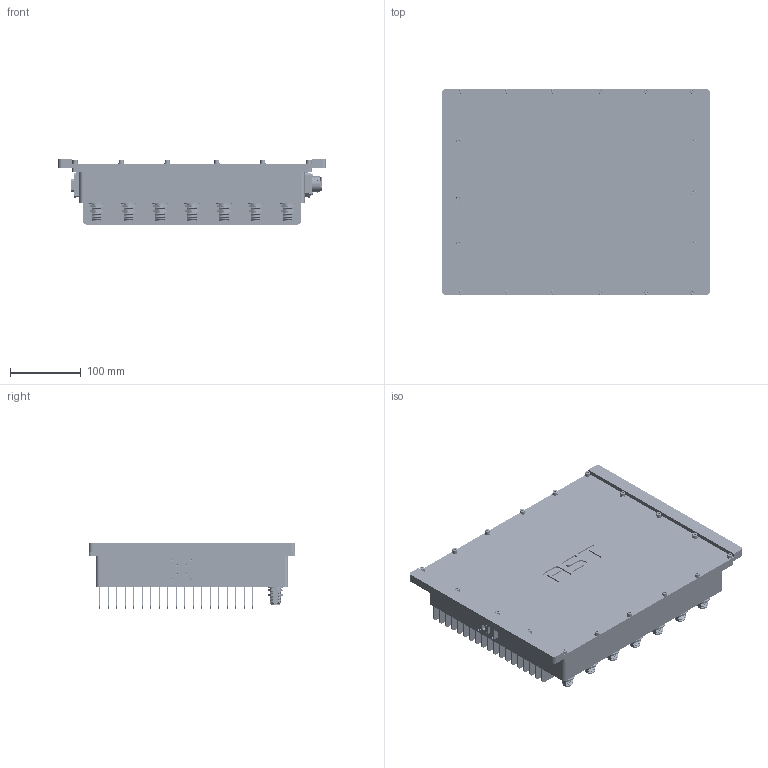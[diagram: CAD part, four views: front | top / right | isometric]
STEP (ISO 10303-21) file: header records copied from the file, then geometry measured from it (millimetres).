
FILE_DESCRIPTION (( 'STEP AP203' ), '1' );
FILE_NAME ('T-REX Radio_03042026.STEP', '2026-03-04T16:09:50', ( '' ), ( '' ), 'SwSTEP 2.0', 'SolidWorks 2022', '' );
FILE_SCHEMA (( 'CONFIG_CONTROL_DESIGN' ));
Length unit declared in the file: millimetre
Products named in the file (18): Waveguide WR22 - Panel; curved spring lock washer_din_Spring washer DIN 128 - A4; DB-9 Female; T-REX Cover; socket head cap screw 4762_din_EN ISO 4762 M4 x 12 - 12N; SND9M3S600G-AA; Saturn Main Board; SND15M32000G; T-REX Radio_03042026; SND25S3000G-AA; O-Ring D2_5; plain washer small grade a_iso_Washer ISO 7092 - 4; CON15_D-SUB_F_ST-0; T-REX Base; Saturn - Main Board; C10-730511-Z2P; RCP-5SPFFH-SSM7001; 172243-11
Assembly tree (75 placements, depth 3):
  T-REX Radio_03042026
    T-REX Base
    T-REX Cover
    Saturn - Main Board
      Saturn Main Board
      172243-11  x7
      SND25S3000G-AA
      SND15M32000G
      SND9M3S600G-AA
      CON15_D-SUB_F_ST-0
    C10-730511-Z2P
    RCP-5SPFFH-SSM7001
    Waveguide WR22 - Panel  x2
    plain washer small grade a_iso_Washer ISO 7092 - 4  x18
    curved spring lock washer_din_Spring washer DIN 128 - A4  x18
    socket head cap screw 4762_din_EN ISO 4762 M4 x 12 - 12N  x18
    O-Ring D2_5
    DB-9 Female
Bounding box: 378 x 292 x 92 mm (x, y, z)
Volume: 1617328.8 mm3; surface area: 1187337.3 mm2
Topology: 89 solids, 143 shells, 17063 faces, 46890 edges, 30377 vertices
Faces by surface type: plane 5709, cylinder 5210, bspline 4265, cone 1426, torus 387, sphere 66
Full cylindrical faces by diameter (mm): 1.003 x18
Entity records: 458343 total; most frequent: CARTESIAN_POINT 206142, ORIENTED_EDGE 55413, DIRECTION 44792, EDGE_CURVE 27734, VERTEX_POINT 17986, AXIS2_PLACEMENT_3D 15645, LINE 13502, VECTOR 13502
